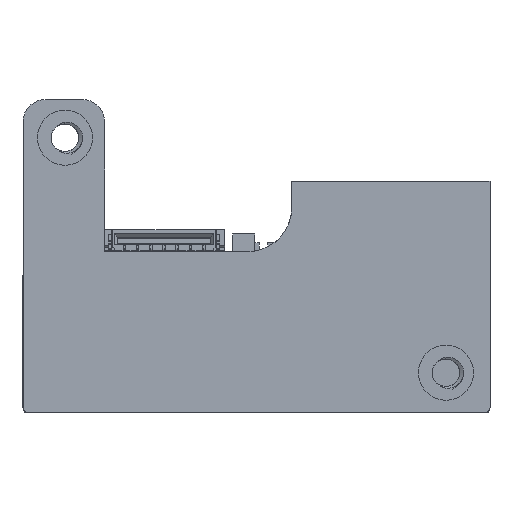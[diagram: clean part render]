
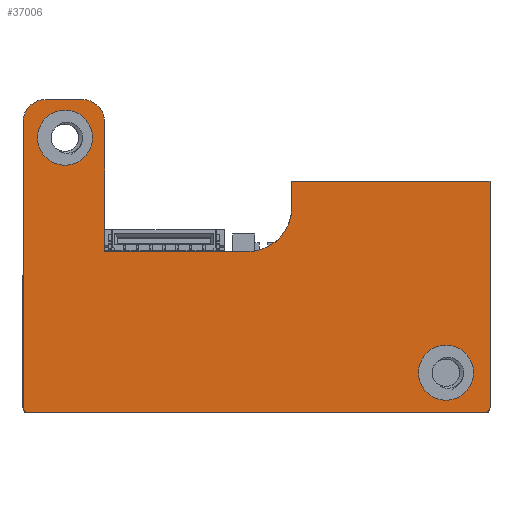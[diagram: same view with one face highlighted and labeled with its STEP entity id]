
A CAD part, front view. The second image highlights one B-rep face of the part: STEP entity #37006.
In plain terms, the highlighted planar face has unit normal (0, -1, 0) as drawn and (1, 0, 0) by its records, which use the part's own axes.
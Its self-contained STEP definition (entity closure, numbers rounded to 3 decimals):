
#36136=DIRECTION('',(0.,1.,0.));
#36137=VECTOR('',#36136,1.2);
#36138=CARTESIAN_POINT('',(5.,4.5,1.65));
#36139=LINE('',#36138,#36137);
#36189=DIRECTION('',(0.,0.,1.));
#36190=VECTOR('',#36189,6.5);
#36191=CARTESIAN_POINT('',(5.,7.7,-6.85));
#36192=LINE('',#36191,#36190);
#36193=CARTESIAN_POINT('',(5.,5.7,-0.35));
#36194=DIRECTION('',(1.,0.,0.));
#36195=DIRECTION('',(0.,1.,0.));
#36196=AXIS2_PLACEMENT_3D('',#36193,#36194,#36195);
#36198=DIRECTION('',(0.,0.,1.));
#36199=VECTOR('',#36198,9.);
#36200=CARTESIAN_POINT('',(5.,4.5,1.65));
#36201=LINE('',#36200,#36199);
#36202=CARTESIAN_POINT('',(5.,14.8,10.45));
#36203=DIRECTION('',(-1.,0.,0.));
#36204=DIRECTION('',(0.,0.,1.));
#36205=AXIS2_PLACEMENT_3D('',#36202,#36203,#36204);
#36207=DIRECTION('',(0.,0.,-1.));
#36208=VECTOR('',#36207,20.8);
#36209=CARTESIAN_POINT('',(5.,15.,10.45));
#36210=LINE('',#36209,#36208);
#36211=CARTESIAN_POINT('',(5.,14.8,-10.35));
#36212=DIRECTION('',(-1.,0.,0.));
#36213=DIRECTION('',(0.,1.,0.));
#36214=AXIS2_PLACEMENT_3D('',#36211,#36212,#36213);
#36216=DIRECTION('',(0.,-1.,0.));
#36217=VECTOR('',#36216,13.);
#36218=CARTESIAN_POINT('',(5.,14.8,-10.55));
#36219=LINE('',#36218,#36217);
#36220=CARTESIAN_POINT('',(5.,1.8,-9.55));
#36221=DIRECTION('',(-1.,0.,0.));
#36222=DIRECTION('',(0.,0.,-1.));
#36223=AXIS2_PLACEMENT_3D('',#36220,#36221,#36222);
#36225=CARTESIAN_POINT('',(5.,1.8,-7.85));
#36226=DIRECTION('',(-1.,0.,0.));
#36227=DIRECTION('',(0.,-1.,0.));
#36228=AXIS2_PLACEMENT_3D('',#36225,#36226,#36227);
#36230=DIRECTION('',(0.,1.,0.));
#36231=VECTOR('',#36230,5.9);
#36232=CARTESIAN_POINT('',(5.,1.8,-6.85));
#36233=LINE('',#36232,#36231);
#36234=CARTESIAN_POINT('',(5.,13.2,8.65));
#36235=DIRECTION('',(1.,0.,0.));
#36236=DIRECTION('',(0.,0.,-1.));
#36237=AXIS2_PLACEMENT_3D('',#36234,#36235,#36236);
#36239=CARTESIAN_POINT('',(5.,13.2,8.65));
#36240=DIRECTION('',(1.,0.,0.));
#36241=DIRECTION('',(0.,0.,1.));
#36242=AXIS2_PLACEMENT_3D('',#36239,#36240,#36241);
#36244=CARTESIAN_POINT('',(5.,2.53,-8.65));
#36245=DIRECTION('',(1.,0.,0.));
#36246=DIRECTION('',(0.,0.,-1.));
#36247=AXIS2_PLACEMENT_3D('',#36244,#36245,#36246);
#36249=CARTESIAN_POINT('',(5.,2.53,-8.65));
#36250=DIRECTION('',(1.,0.,0.));
#36251=DIRECTION('',(0.,0.,1.));
#36252=AXIS2_PLACEMENT_3D('',#36249,#36250,#36251);
#36295=DIRECTION('',(0.,-1.,0.));
#36296=VECTOR('',#36295,10.3);
#36297=CARTESIAN_POINT('',(5.,14.8,10.65));
#36298=LINE('',#36297,#36296);
#36475=DIRECTION('',(0.,0.,-1.));
#36476=VECTOR('',#36475,1.7);
#36477=CARTESIAN_POINT('',(5.,0.8,-7.85));
#36478=LINE('',#36477,#36476);
#36700=CARTESIAN_POINT('',(5.,4.5,1.65));
#36701=VERTEX_POINT('',#36700);
#36702=CARTESIAN_POINT('',(5.,5.7,1.65));
#36703=VERTEX_POINT('',#36702);
#36748=CARTESIAN_POINT('',(5.,13.2,7.4));
#36749=CARTESIAN_POINT('',(5.,13.2,9.9));
#36750=VERTEX_POINT('',#36748);
#36751=VERTEX_POINT('',#36749);
#36752=CARTESIAN_POINT('',(5.,7.7,-6.85));
#36753=CARTESIAN_POINT('',(5.,7.7,-0.35));
#36754=VERTEX_POINT('',#36752);
#36755=VERTEX_POINT('',#36753);
#36756=CARTESIAN_POINT('',(5.,4.5,10.65));
#36757=VERTEX_POINT('',#36756);
#36758=CARTESIAN_POINT('',(5.,14.8,10.65));
#36759=VERTEX_POINT('',#36758);
#36760=CARTESIAN_POINT('',(5.,15.,10.45));
#36761=VERTEX_POINT('',#36760);
#36762=CARTESIAN_POINT('',(5.,15.,-10.35));
#36763=VERTEX_POINT('',#36762);
#36764=CARTESIAN_POINT('',(5.,14.8,-10.55));
#36765=VERTEX_POINT('',#36764);
#36766=CARTESIAN_POINT('',(5.,1.8,-10.55));
#36767=VERTEX_POINT('',#36766);
#36768=CARTESIAN_POINT('',(5.,0.8,-9.55));
#36769=VERTEX_POINT('',#36768);
#36770=CARTESIAN_POINT('',(5.,0.8,-7.85));
#36771=VERTEX_POINT('',#36770);
#36772=CARTESIAN_POINT('',(5.,1.8,-6.85));
#36773=VERTEX_POINT('',#36772);
#36774=CARTESIAN_POINT('',(5.,2.53,-9.9));
#36775=CARTESIAN_POINT('',(5.,2.53,-7.4));
#36776=VERTEX_POINT('',#36774);
#36777=VERTEX_POINT('',#36775);
#36963=CARTESIAN_POINT('',(5.,0.,-10.65));
#36964=DIRECTION('',(1.,0.,0.));
#36965=DIRECTION('',(0.,1.,0.));
#36966=AXIS2_PLACEMENT_3D('',#36963,#36964,#36965);
#36967=PLANE('',#36966);
#36968=ORIENTED_EDGE('',*,*,#36953,.T.);
#36970=ORIENTED_EDGE('',*,*,#36969,.T.);
#36971=ORIENTED_EDGE('',*,*,#36875,.F.);
#36973=ORIENTED_EDGE('',*,*,#36972,.T.);
#36975=ORIENTED_EDGE('',*,*,#36974,.F.);
#36977=ORIENTED_EDGE('',*,*,#36976,.T.);
#36979=ORIENTED_EDGE('',*,*,#36978,.T.);
#36981=ORIENTED_EDGE('',*,*,#36980,.T.);
#36983=ORIENTED_EDGE('',*,*,#36982,.T.);
#36985=ORIENTED_EDGE('',*,*,#36984,.T.);
#36987=ORIENTED_EDGE('',*,*,#36986,.F.);
#36989=ORIENTED_EDGE('',*,*,#36988,.T.);
#36991=ORIENTED_EDGE('',*,*,#36990,.T.);
#36992=EDGE_LOOP('',(#36968,#36970,#36971,#36973,#36975,#36977,#36979,#36981,
#36983,#36985,#36987,#36989,#36991));
#36993=FACE_OUTER_BOUND('',#36992,.F.);
#36995=ORIENTED_EDGE('',*,*,#36994,.T.);
#36997=ORIENTED_EDGE('',*,*,#36996,.T.);
#36998=EDGE_LOOP('',(#36995,#36997));
#36999=FACE_BOUND('',#36998,.F.);
#37001=ORIENTED_EDGE('',*,*,#37000,.T.);
#37003=ORIENTED_EDGE('',*,*,#37002,.T.);
#37004=EDGE_LOOP('',(#37001,#37003));
#37005=FACE_BOUND('',#37004,.F.);
#36197=CIRCLE('',#36196,2.);
#36206=CIRCLE('',#36205,0.2);
#36215=CIRCLE('',#36214,0.2);
#36224=CIRCLE('',#36223,1.);
#36229=CIRCLE('',#36228,1.);
#36238=CIRCLE('',#36237,1.25);
#36243=CIRCLE('',#36242,1.25);
#36248=CIRCLE('',#36247,1.25);
#36253=CIRCLE('',#36252,1.25);
#36875=EDGE_CURVE('',#36701,#36703,#36139,.T.);
#36953=EDGE_CURVE('',#36754,#36755,#36192,.T.);
#36969=EDGE_CURVE('',#36755,#36703,#36197,.T.);
#36972=EDGE_CURVE('',#36701,#36757,#36201,.T.);
#36974=EDGE_CURVE('',#36759,#36757,#36298,.T.);
#36976=EDGE_CURVE('',#36759,#36761,#36206,.T.);
#36978=EDGE_CURVE('',#36761,#36763,#36210,.T.);
#36980=EDGE_CURVE('',#36763,#36765,#36215,.T.);
#36982=EDGE_CURVE('',#36765,#36767,#36219,.T.);
#36984=EDGE_CURVE('',#36767,#36769,#36224,.T.);
#36986=EDGE_CURVE('',#36771,#36769,#36478,.T.);
#36988=EDGE_CURVE('',#36771,#36773,#36229,.T.);
#36990=EDGE_CURVE('',#36773,#36754,#36233,.T.);
#36994=EDGE_CURVE('',#36750,#36751,#36238,.T.);
#36996=EDGE_CURVE('',#36751,#36750,#36243,.T.);
#37000=EDGE_CURVE('',#36776,#36777,#36248,.T.);
#37002=EDGE_CURVE('',#36777,#36776,#36253,.T.);
#37006=ADVANCED_FACE('',(#36993,#36999,#37005),#36967,.T.);
